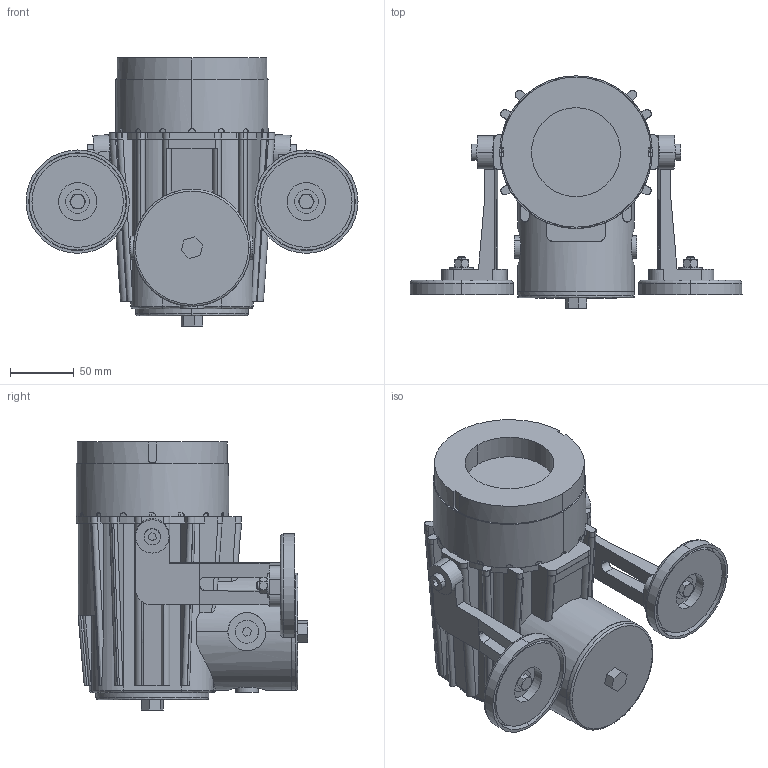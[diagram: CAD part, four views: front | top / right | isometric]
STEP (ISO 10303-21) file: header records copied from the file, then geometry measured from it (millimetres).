
FILE_DESCRIPTION (( 'STEP AP214' ), '1' );
FILE_NAME ('EXPSG-HLVLED-10W-M.STEP', '2017-04-13T16:11:39', ( '' ), ( '' ), 'SwSTEP 2.0', 'SolidWorks 2016', '' );
FILE_SCHEMA (( 'AUTOMOTIVE_DESIGN' ));
Length unit declared in the file: inch
Products named in the file (13): Bolt; Lens; Side Bolt; Bulb; EXPSG-HLVLED-10W-M; hex nut_ai_HNUT 0.2500-20-D-N; hex bolt_ai_HBOLT 0.2500-20x0.875x0.75-N; flat washer type b regular_ai_Regular FW 0.25; Little magnet; Rt Brace; Body; lens cap; Lt Brace
Assembly tree (21 placements, depth 2):
  EXPSG-HLVLED-10W-M
    Bulb
    Side Bolt  x3
    Lens
    Bolt  x2
    Lt Brace
    lens cap
    Body
    Rt Brace
    Little magnet  x2
    flat washer type b regular_ai_Regular FW 0.25  x4
    hex bolt_ai_HBOLT 0.2500-20x0.875x0.75-N  x2
    hex nut_ai_HNUT 0.2500-20-D-N  x2
Bounding box: 261.17 x 182.45 x 210.85 mm (x, y, z)
Volume: 2550375.8 mm3; surface area: 313205.6 mm2
Topology: 21 solids, 21 shells, 691 faces, 1767 edges, 1146 vertices
Faces by surface type: plane 361, cylinder 253, cone 52, bspline 17, torus 8
Entity records: 29795 total; most frequent: CARTESIAN_POINT 8949, ORIENTED_EDGE 3030, DIRECTION 2612, EDGE_CURVE 1515, VERTEX_POINT 988, AXIS2_PLACEMENT_3D 885, LINE 842, VECTOR 842
